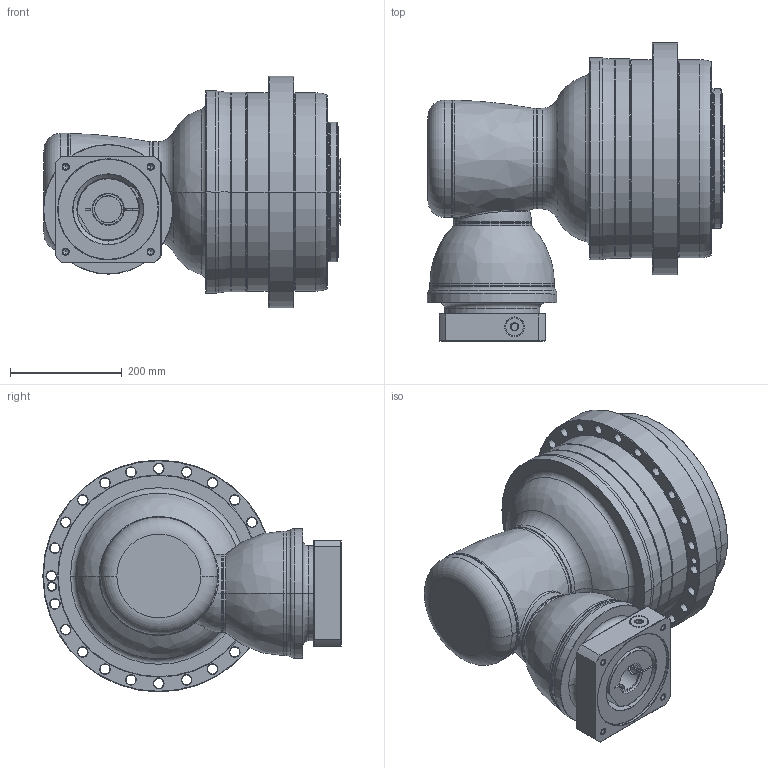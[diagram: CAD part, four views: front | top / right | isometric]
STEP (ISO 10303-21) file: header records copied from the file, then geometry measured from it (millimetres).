
FILE_DESCRIPTION((''),'2;1');
FILE_NAME('APCK355_3ST_48-P0409B10201_ASM','2018-05-14T',('d01226'),(''),'PRO/ENGINEER BY PARAMETRIC TECHNOLOGY CORPORATION, 2008410','PRO/ENGINEER BY PARAMETRIC TECHNOLOGY CORPORATION, 2008410','');
FILE_SCHEMA(('CONFIG_CONTROL_DESIGN'));
Length unit declared in the file: millimetre
Products named in the file (13): P1008600002; P1315600001; P1007601001; P1318610401; P0409B10201; P0503B00016; P0912654001; 21711426021; P1821110001; P0276101003; P03571G0103; P1222100001; APCK355_3ST_48-P0409B10201_ASM
Assembly tree (12 placements, depth 2):
  APCK355_3ST_48-P0409B10201_ASM
    P1008600002
    P1315600001
    P1007601001
    P1318610401
    P0409B10201
    P0503B00016
    P0912654001
    21711426021
    P1821110001
    P0276101003
    P03571G0103
    P1222100001
Bounding box: 532.1 x 534 x 415 mm (x, y, z)
Volume: 43759885.2 mm3; surface area: 2080410.3 mm2
Topology: 13 solids, 25 shells, 822 faces, 1979 edges, 1214 vertices
Faces by surface type: cone 256, cylinder 230, plane 155, torus 148, bspline 31, sphere 2
Entity records: 32223 total; most frequent: CARTESIAN_POINT 12609, DIRECTION 4371, ORIENTED_EDGE 3880, EDGE_CURVE 1965, AXIS2_PLACEMENT_3D 1938, VERTEX_POINT 1214, CIRCLE 1110, EDGE_LOOP 935
